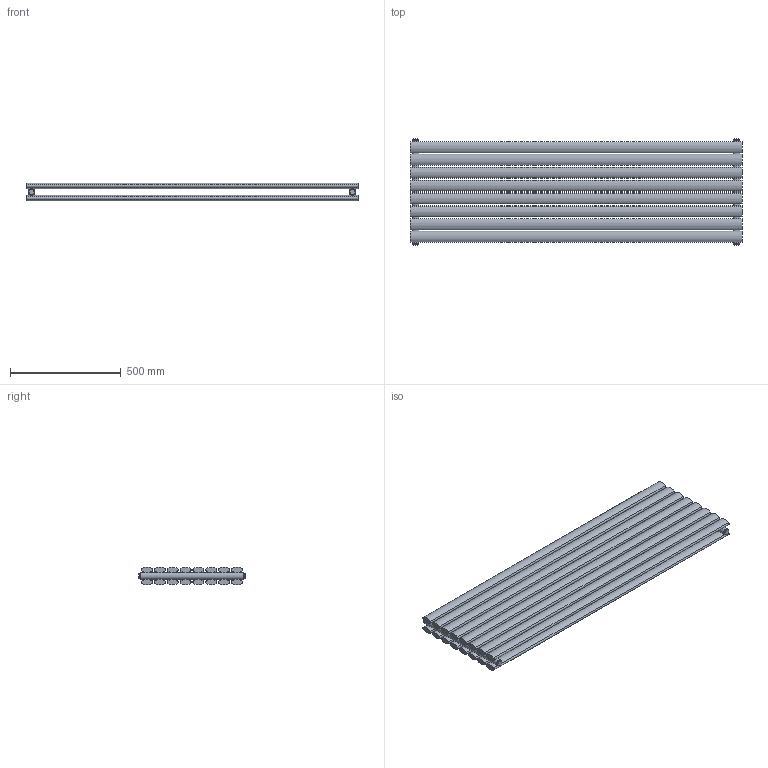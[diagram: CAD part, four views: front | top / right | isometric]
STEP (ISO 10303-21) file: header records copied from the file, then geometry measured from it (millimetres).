
FILE_DESCRIPTION(/* description */ (''),/* implementation_level */ '2;1');
FILE_NAME(/* name */ 'C:\Grzejniki\13DLUXRAD\pokojowe\FORTUNA\FORTUNA PODWÓJNA 1500x468.iam.stp',/* time_stamp */ '2016-06-28T17:31:44+02:00',/* author */ ('m.szydziak'),/* organization */ (''),/* preprocessor_version */ 'ST-DEVELOPER v16.5',/* originating_system */ 'Autodesk Inventor 2017',/* authorisation */ '');
FILE_SCHEMA (('AUTOMOTIVE_DESIGN { 1 0 10303 214 3 1 1 }'));
Length unit declared in the file: millimetre
Products named in the file (5): FORTUNA PODWÓJNA 1500x468; %%c30x1,5x468; 50x25x1,2x1500; zaślepka fi30 G0,5inch; korek
Assembly tree (26 placements, depth 2):
  FORTUNA PODWÓJNA 1500x468
    %%c30x1,5x468  x2
    50x25x1,2x1500  x16
    zaślepka fi30 G0,5inch  x4
    korek  x4
Bounding box: 1500 x 480 x 79.72 mm (x, y, z)
Volume: 23169555.8 mm3; surface area: 3099296.2 mm2
Topology: 26 solids, 26 shells, 180 faces, 388 edges, 260 vertices
Faces by surface type: plane 100, cylinder 80
Full cylindrical faces by diameter (mm): 18.631 x4, 24 x4, 27 x6, 30 x2
Entity records: 1093 total; most frequent: DIRECTION 206, CARTESIAN_POINT 158, ORIENTED_EDGE 114, AXIS2_PLACEMENT_3D 89, EDGE_CURVE 57, VERTEX_POINT 41, EDGE_LOOP 38, PRODUCT_DEFINITION_SHAPE 31
